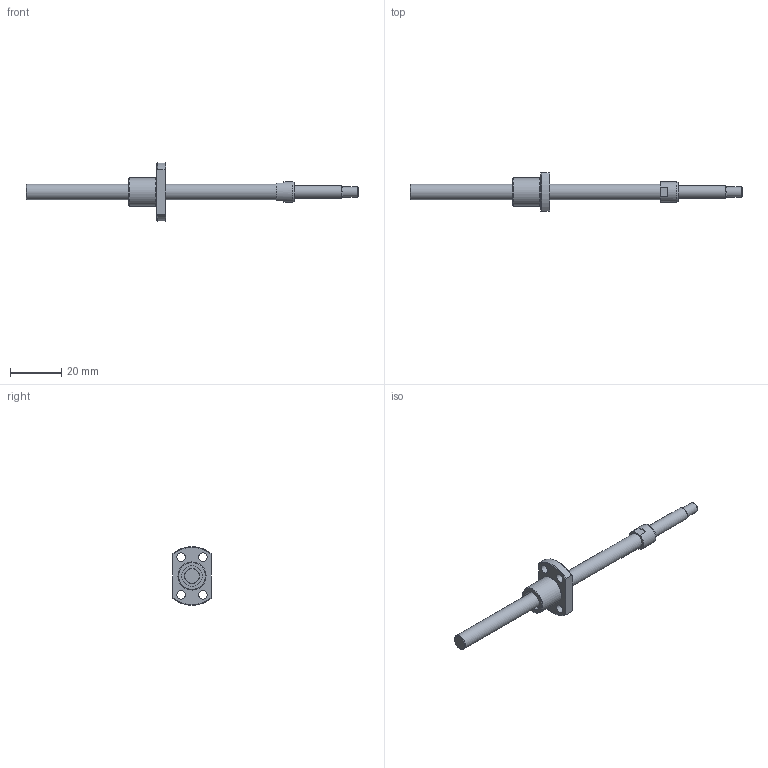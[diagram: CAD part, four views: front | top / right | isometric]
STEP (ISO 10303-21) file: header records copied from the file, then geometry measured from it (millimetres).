
FILE_DESCRIPTION(/* description */ ('STEP AP203'),/* implementation_level */ '2;1');
FILE_NAME(/* name */ 'BNK0601-3G0+130LC5Y(54.75)',/* time_stamp */ '2024-07-09T08:16:09+02:00',/* author */ ('License CC BY-ND 4.0'),/* organization */ ('CADENAS'),/* preprocessor_version */ 'ST-DEVELOPER v19.3',/* originating_system */ 'PARTsolutions',/* authorisation */ ' ');
FILE_SCHEMA (('CONFIG_CONTROL_DESIGN'));
Length unit declared in the file: millimetre
Products named in the file (3): BNK0601-3G0+130LC5Y(54.75); BNK 0601-3G0+130LC5Y Shaft; BNK 0601-3G0+130LC5Y Nut
Assembly tree (2 placements, depth 2):
  BNK0601-3G0+130LC5Y(54.75)
    BNK 0601-3G0+130LC5Y Shaft
    BNK 0601-3G0+130LC5Y Nut
Bounding box: 130 x 15 x 22.93 mm (x, y, z)
Volume: 5084.5 mm3; surface area: 4071.3 mm2
Topology: 2 solids, 2 shells, 42 faces, 87 edges, 56 vertices
Faces by surface type: plane 17, cylinder 15, cone 9, torus 1
Full cylindrical faces by diameter (mm): 3.4 x4, 4 x1, 5 x1, 6 x2, 8 x3, 10 x1, 11 x1
Entity records: 1125 total; most frequent: DIRECTION 192, CARTESIAN_POINT 191, ORIENTED_EDGE 134, AXIS2_PLACEMENT_3D 88, EDGE_LOOP 78, FACE_BOUND 78, EDGE_CURVE 67, VERTEX_POINT 55
